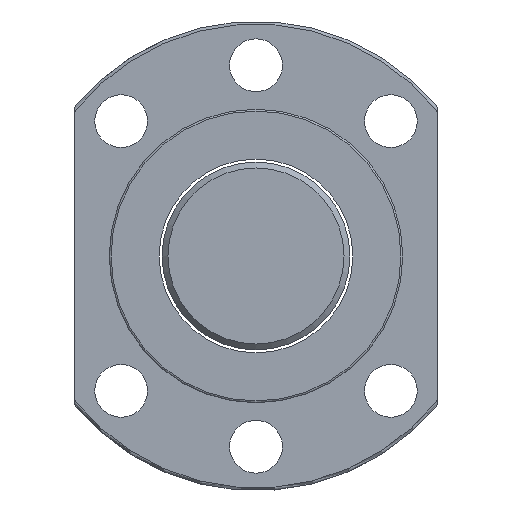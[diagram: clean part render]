
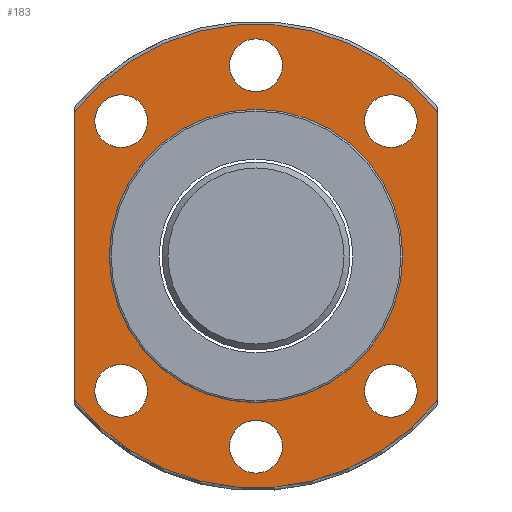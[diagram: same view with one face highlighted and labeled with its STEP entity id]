
A CAD part, left-side view. The second image highlights one B-rep face of the part: STEP entity #183.
In plain terms, the highlighted planar face has unit normal (-1, 0, 0).
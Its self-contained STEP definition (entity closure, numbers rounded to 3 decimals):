
#112=LINE('',#708,#116);
#113=LINE('',#712,#117);
#116=VECTOR('',#591,1.);
#117=VECTOR('',#594,1.);
#142=FACE_BOUND('',#237,.T.);
#143=FACE_BOUND('',#238,.T.);
#144=FACE_BOUND('',#239,.T.);
#145=FACE_BOUND('',#240,.T.);
#146=FACE_BOUND('',#241,.T.);
#147=FACE_BOUND('',#242,.T.);
#148=FACE_BOUND('',#243,.T.);
#183=ADVANCED_FACE('',(#142,#143,#144,#145,#146,#147,#148,#217),#207,.T.);
#207=PLANE('',#515);
#217=FACE_OUTER_BOUND('',#244,.T.);
#237=EDGE_LOOP('',(#293));
#238=EDGE_LOOP('',(#294));
#239=EDGE_LOOP('',(#295));
#240=EDGE_LOOP('',(#296));
#241=EDGE_LOOP('',(#297));
#242=EDGE_LOOP('',(#298));
#243=EDGE_LOOP('',(#299));
#244=EDGE_LOOP('',(#300,#301,#302,#303));
#293=ORIENTED_EDGE('',*,*,#422,.T.);
#294=ORIENTED_EDGE('',*,*,#423,.F.);
#295=ORIENTED_EDGE('',*,*,#424,.F.);
#296=ORIENTED_EDGE('',*,*,#425,.F.);
#297=ORIENTED_EDGE('',*,*,#426,.F.);
#298=ORIENTED_EDGE('',*,*,#427,.F.);
#299=ORIENTED_EDGE('',*,*,#428,.F.);
#300=ORIENTED_EDGE('',*,*,#429,.F.);
#301=ORIENTED_EDGE('',*,*,#430,.T.);
#302=ORIENTED_EDGE('',*,*,#431,.F.);
#303=ORIENTED_EDGE('',*,*,#432,.F.);
#383=VERTEX_POINT('',#692);
#384=VERTEX_POINT('',#694);
#385=VERTEX_POINT('',#696);
#386=VERTEX_POINT('',#698);
#387=VERTEX_POINT('',#700);
#388=VERTEX_POINT('',#702);
#389=VERTEX_POINT('',#704);
#390=VERTEX_POINT('',#706);
#391=VERTEX_POINT('',#707);
#392=VERTEX_POINT('',#709);
#393=VERTEX_POINT('',#711);
#422=EDGE_CURVE('',#383,#383,#469,.T.);
#423=EDGE_CURVE('',#384,#384,#470,.T.);
#424=EDGE_CURVE('',#385,#385,#471,.T.);
#425=EDGE_CURVE('',#386,#386,#472,.T.);
#426=EDGE_CURVE('',#387,#387,#473,.T.);
#427=EDGE_CURVE('',#388,#388,#474,.T.);
#428=EDGE_CURVE('',#389,#389,#475,.T.);
#429=EDGE_CURVE('',#390,#391,#476,.T.);
#430=EDGE_CURVE('',#390,#392,#112,.T.);
#431=EDGE_CURVE('',#393,#392,#477,.T.);
#432=EDGE_CURVE('',#391,#393,#113,.T.);
#469=CIRCLE('',#506,25.);
#470=CIRCLE('',#507,4.5);
#471=CIRCLE('',#508,4.5);
#472=CIRCLE('',#509,4.5);
#473=CIRCLE('',#510,4.5);
#474=CIRCLE('',#511,4.5);
#475=CIRCLE('',#512,4.5);
#476=CIRCLE('',#513,39.5);
#477=CIRCLE('',#514,39.5);
#506=AXIS2_PLACEMENT_3D('',#691,#575,#576);
#507=AXIS2_PLACEMENT_3D('',#693,#577,#578);
#508=AXIS2_PLACEMENT_3D('',#695,#579,#580);
#509=AXIS2_PLACEMENT_3D('',#697,#581,#582);
#510=AXIS2_PLACEMENT_3D('',#699,#583,#584);
#511=AXIS2_PLACEMENT_3D('',#701,#585,#586);
#512=AXIS2_PLACEMENT_3D('',#703,#587,#588);
#513=AXIS2_PLACEMENT_3D('',#705,#589,#590);
#514=AXIS2_PLACEMENT_3D('',#710,#592,#593);
#515=AXIS2_PLACEMENT_3D('',#713,#595,#596);
#575=DIRECTION('',(1.,0.,0.));
#576=DIRECTION('',(0.,1.,0.));
#577=DIRECTION('',(-1.,0.,0.));
#578=DIRECTION('',(0.,-1.,0.));
#579=DIRECTION('',(-1.,0.,0.));
#580=DIRECTION('',(0.,-1.,0.));
#581=DIRECTION('',(-1.,0.,0.));
#582=DIRECTION('',(0.,-1.,0.));
#583=DIRECTION('',(-1.,0.,0.));
#584=DIRECTION('',(0.,-1.,0.));
#585=DIRECTION('',(-1.,0.,0.));
#586=DIRECTION('',(0.,-1.,0.));
#587=DIRECTION('',(-1.,0.,0.));
#588=DIRECTION('',(0.,-1.,0.));
#589=DIRECTION('',(1.,0.,0.));
#590=DIRECTION('',(0.,1.,0.));
#591=DIRECTION('',(0.,0.,1.));
#592=DIRECTION('',(1.,0.,0.));
#593=DIRECTION('',(0.,1.,0.));
#594=DIRECTION('',(0.,0.,1.));
#595=DIRECTION('',(-1.,0.,0.));
#596=DIRECTION('',(0.,-1.,0.));
#691=CARTESIAN_POINT('',(-32.893,0.,0.));
#692=CARTESIAN_POINT('',(-32.893,25.,0.));
#693=CARTESIAN_POINT('',(-32.893,22.981,22.981));
#694=CARTESIAN_POINT('',(-32.893,18.481,22.981));
#695=CARTESIAN_POINT('',(-32.893,-22.981,22.981));
#696=CARTESIAN_POINT('',(-32.893,-27.481,22.981));
#697=CARTESIAN_POINT('',(-32.893,-22.981,-22.981));
#698=CARTESIAN_POINT('',(-32.893,-27.481,-22.981));
#699=CARTESIAN_POINT('',(-32.893,22.981,-22.981));
#700=CARTESIAN_POINT('',(-32.893,18.481,-22.981));
#701=CARTESIAN_POINT('',(-32.893,0.,32.5));
#702=CARTESIAN_POINT('',(-32.893,-4.5,32.5));
#703=CARTESIAN_POINT('',(-32.893,0.,-32.5));
#704=CARTESIAN_POINT('',(-32.893,-4.5,-32.5));
#705=CARTESIAN_POINT('',(-32.893,0.,0.));
#706=CARTESIAN_POINT('',(-32.893,-31.,-24.48));
#707=CARTESIAN_POINT('',(-32.893,31.,-24.48));
#708=CARTESIAN_POINT('',(-32.893,-31.,0.));
#709=CARTESIAN_POINT('',(-32.893,-31.,24.48));
#710=CARTESIAN_POINT('',(-32.893,0.,0.));
#711=CARTESIAN_POINT('',(-32.893,31.,24.48));
#712=CARTESIAN_POINT('',(-32.893,31.,0.));
#713=CARTESIAN_POINT('',(-32.893,32.25,0.));
